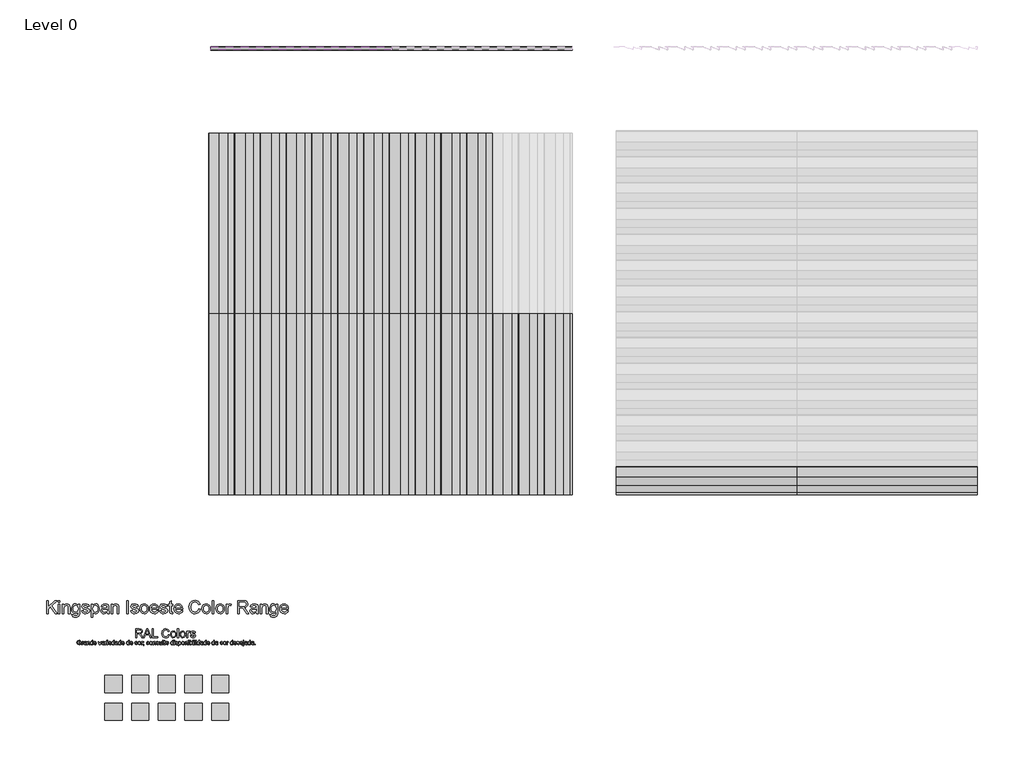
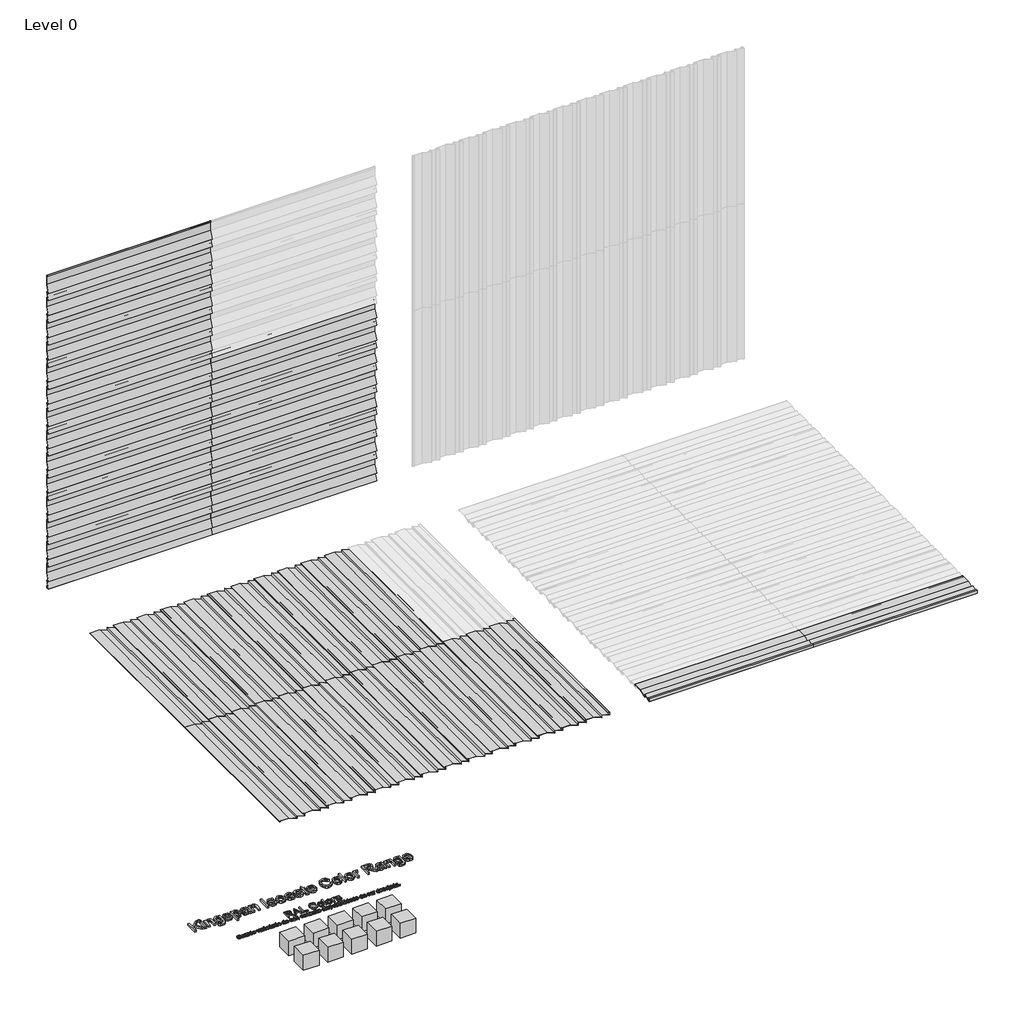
# One storey, part 1 of 2: 60 proxies.
"""IFC4 building model written with IfcOpenShell, lengths in millimetres."""

from ifc_helpers import new_model, si_unit, origin, place, context, project, spatial, transform, mapped, element, save
from components import proxy_32_ks_iso_colour_range_8220f766, proxy_32_ks_iso_colour_range_06d69407, ks_colour_sample_ks_colour_sample_0243efec, ps3_0_standard_panel_ns_63d88878, ps3_0_standard_panel_ns_83fd88ae

model = new_model("IFC4")

# Units and contexts
model_context = context("Model", 3, world=origin())
ifc_project = project(units=[si_unit("LENGTHUNIT", "METRE", prefix="MILLI")], contexts=[model_context])

# Site, building, storey
site = spatial("IfcSite", under=ifc_project)
building = spatial("IfcBuilding", under=site)
storey = spatial("IfcBuildingStorey", under=building, Name="Level 0", Elevation=0.0)

# Proxies
placement = place(None, origin())
proxy_32_ks_iso_colour_range_shape = proxy_32_ks_iso_colour_range_8220f766(model_context)
proxy_32_ks_iso_colour_range_2_shape = proxy_32_ks_iso_colour_range_06d69407(model_context)
element("IfcBuildingElementProxy", 1, Name="32-KS-ISO-Colour Range : Kingspan Isoeste Color Range", ObjectType="32-KS-ISO-Colour Range : Kingspan Isoeste Color Range", at=placement, inside=storey, context=model_context, shape_type="MappedRepresentation", body=[
    mapped(proxy_32_ks_iso_colour_range_shape, transform((-3929.8390717, -2223.0925896, 0.0), x_axis=(1.0, 0.0, 0.0), y_axis=(0.0, 1.0, 0.0), z_axis=(0.0, 0.0, 1.0))),
    mapped(proxy_32_ks_iso_colour_range_2_shape, transform((-3929.8390717, -2223.0925896, 0.0), x_axis=(1.0, 0.0, 0.0), y_axis=(0.0, 1.0, 0.0), z_axis=(0.0, 0.0, 1.0))),
])
ks_colour_sample_ks_colour_sample_shape = ks_colour_sample_ks_colour_sample_0243efec(model_context)
element("IfcBuildingElementProxy", 2, Name="KS_Colour Sample : KS_Colour Sample", ObjectType="KS_Colour Sample : KS_Colour Sample", at=placement, inside=storey, context=model_context, shape_type="MappedRepresentation", body=[
    mapped(ks_colour_sample_ks_colour_sample_shape, transform((-3309.8390717, -2663.0925896, 0.0), x_axis=(1.0, 0.0, 0.0), y_axis=(0.0, 1.0, 0.0), z_axis=(0.0, 0.0, 1.0))),
])
element("IfcBuildingElementProxy", 3, Name="KS_Colour Sample : KS_Colour Sample", ObjectType="KS_Colour Sample : KS_Colour Sample", at=placement, inside=storey, context=model_context, shape_type="MappedRepresentation", body=[
    mapped(ks_colour_sample_ks_colour_sample_shape, transform((-3309.8390717, -2343.0925896, 0.0), x_axis=(1.0, 0.0, 0.0), y_axis=(0.0, 1.0, 0.0), z_axis=(0.0, 0.0, 1.0))),
])
element("IfcBuildingElementProxy", 4, Name="KS_Colour Sample : KS_Colour Sample", ObjectType="KS_Colour Sample : KS_Colour Sample", at=placement, inside=storey, context=model_context, shape_type="MappedRepresentation", body=[
    mapped(ks_colour_sample_ks_colour_sample_shape, transform((-4549.8390717, -2663.0925896, 0.0), x_axis=(1.0, 0.0, 0.0), y_axis=(0.0, 1.0, 0.0), z_axis=(0.0, 0.0, 1.0))),
])
element("IfcBuildingElementProxy", 5, Name="KS_Colour Sample : KS_Colour Sample", ObjectType="KS_Colour Sample : KS_Colour Sample", at=placement, inside=storey, context=model_context, shape_type="MappedRepresentation", body=[
    mapped(ks_colour_sample_ks_colour_sample_shape, transform((-4239.8390717, -2663.0925896, 0.0), x_axis=(1.0, 0.0, 0.0), y_axis=(0.0, 1.0, 0.0), z_axis=(0.0, 0.0, 1.0))),
])
element("IfcBuildingElementProxy", 6, Name="KS_Colour Sample : KS_Colour Sample", ObjectType="KS_Colour Sample : KS_Colour Sample", at=placement, inside=storey, context=model_context, shape_type="MappedRepresentation", body=[
    mapped(ks_colour_sample_ks_colour_sample_shape, transform((-3619.8390717, -2663.0925896, 0.0), x_axis=(1.0, 0.0, 0.0), y_axis=(0.0, 1.0, 0.0), z_axis=(0.0, 0.0, 1.0))),
])
element("IfcBuildingElementProxy", 7, Name="KS_Colour Sample : KS_Colour Sample", ObjectType="KS_Colour Sample : KS_Colour Sample", at=placement, inside=storey, context=model_context, shape_type="MappedRepresentation", body=[
    mapped(ks_colour_sample_ks_colour_sample_shape, transform((-4549.8390717, -2343.0925896, 0.0), x_axis=(1.0, 0.0, 0.0), y_axis=(0.0, 1.0, 0.0), z_axis=(0.0, 0.0, 1.0))),
])
element("IfcBuildingElementProxy", 8, Name="KS_Colour Sample : KS_Colour Sample", ObjectType="KS_Colour Sample : KS_Colour Sample", at=placement, inside=storey, context=model_context, shape_type="MappedRepresentation", body=[
    mapped(ks_colour_sample_ks_colour_sample_shape, transform((-4239.8390717, -2343.0925896, 0.0), x_axis=(1.0, 0.0, 0.0), y_axis=(0.0, 1.0, 0.0), z_axis=(0.0, 0.0, 1.0))),
])
element("IfcBuildingElementProxy", 9, Name="KS_Colour Sample : KS_Colour Sample", ObjectType="KS_Colour Sample : KS_Colour Sample", at=placement, inside=storey, context=model_context, shape_type="MappedRepresentation", body=[
    mapped(ks_colour_sample_ks_colour_sample_shape, transform((-3619.8390717, -2343.0925896, 0.0), x_axis=(1.0, 0.0, 0.0), y_axis=(0.0, 1.0, 0.0), z_axis=(0.0, 0.0, 1.0))),
])
element("IfcBuildingElementProxy", 10, Name="KS_Colour Sample : KS_Colour Sample", ObjectType="KS_Colour Sample : KS_Colour Sample", at=placement, inside=storey, context=model_context, shape_type="MappedRepresentation", body=[
    mapped(ks_colour_sample_ks_colour_sample_shape, transform((-3929.8390717, -2343.0925896, 0.0), x_axis=(1.0, 0.0, 0.0), y_axis=(0.0, 1.0, 0.0), z_axis=(0.0, 0.0, 1.0))),
])
element("IfcBuildingElementProxy", 11, Name="KS_Colour Sample : KS_Colour Sample", ObjectType="KS_Colour Sample : KS_Colour Sample", at=placement, inside=storey, context=model_context, shape_type="MappedRepresentation", body=[
    mapped(ks_colour_sample_ks_colour_sample_shape, transform((-3929.8390717, -2663.0925896, 0.0), x_axis=(1.0, 0.0, 0.0), y_axis=(0.0, 1.0, 0.0), z_axis=(0.0, 0.0, 1.0))),
])
ps3_0_standard_panel_ns_shape = ps3_0_standard_panel_ns_63d88878(model_context)
element("IfcBuildingElementProxy", 12, Name="PS3.0 : Standard Panel_NS", ObjectType="PS3.0 : Standard Panel_NS", at=placement, inside=storey, context=model_context, shape_type="MappedRepresentation", body=[
    mapped(ps3_0_standard_panel_ns_shape, transform((-3417.7637295, 5063.0274074, 900.0), x_axis=(1.0, 0.0, 0.0), y_axis=(0.0, 0.0, 1.0), z_axis=(0.0, -1.0, 0.0))),
])
element("IfcBuildingElementProxy", 13, Name="PS3.0 : Standard Panel_NS", ObjectType="PS3.0 : Standard Panel_NS", at=placement, inside=storey, context=model_context, shape_type="MappedRepresentation", body=[
    mapped(ps3_0_standard_panel_ns_shape, transform((-3417.7637295, 5063.0274074, 3300.0), x_axis=(1.0, 0.0, 0.0), y_axis=(0.0, 0.0, 1.0), z_axis=(0.0, -1.0, 0.0))),
])
element("IfcBuildingElementProxy", 14, Name="PS3.0 : Standard Panel_NS", ObjectType="PS3.0 : Standard Panel_NS", at=placement, inside=storey, context=model_context, shape_type="MappedRepresentation", body=[
    mapped(ps3_0_standard_panel_ns_shape, transform((-1317.7637295, 5063.0274074, 900.0), x_axis=(1.0, 0.0, 0.0), y_axis=(0.0, 0.0, 1.0), z_axis=(0.0, -1.0, 0.0))),
])
ps3_0_standard_panel_ns_2_shape = ps3_0_standard_panel_ns_83fd88ae(model_context)
element("IfcBuildingElementProxy", 15, Name="PS3.0 : Standard Panel_NS", ObjectType="PS3.0 : Standard Panel_NS", at=placement, inside=storey, context=model_context, shape_type="MappedRepresentation", body=[
    mapped(ps3_0_standard_panel_ns_2_shape, transform((-117.7637297, -141.6886547, 0.0), x_axis=(0.0, 1.0, 0.0), y_axis=(-1.0, 0.0, 0.0), z_axis=(0.0, 0.0, 1.0))),
])
element("IfcBuildingElementProxy", 16, Name="PS3.0 : Standard Panel_NS", ObjectType="PS3.0 : Standard Panel_NS", at=placement, inside=storey, context=model_context, shape_type="MappedRepresentation", body=[
    mapped(ps3_0_standard_panel_ns_2_shape, transform((-2517.7637297, -141.6886547, 0.0), x_axis=(0.0, 1.0, 0.0), y_axis=(-1.0, 0.0, 0.0), z_axis=(0.0, 0.0, 1.0))),
])
element("IfcBuildingElementProxy", 17, Name="PS3.0 : Standard Panel_NS", ObjectType="PS3.0 : Standard Panel_NS", at=placement, inside=storey, context=model_context, shape_type="MappedRepresentation", body=[
    mapped(ps3_0_standard_panel_ns_2_shape, transform((-2517.7637297, 1958.3113453, 0.0), x_axis=(0.0, 1.0, 0.0), y_axis=(-1.0, 0.0, 0.0), z_axis=(0.0, 0.0, 1.0))),
])
element("IfcBuildingElementProxy", 18, Name="PS3.0 : Standard Panel_NS", ObjectType="PS3.0 : Standard Panel_NS", at=placement, inside=storey, context=model_context, shape_type="MappedRepresentation", body=[
    mapped(ps3_0_standard_panel_ns_2_shape, transform((-117.7637297, 1958.3113453, 0.0), x_axis=(0.0, 1.0, 0.0), y_axis=(-1.0, 0.0, 0.0), z_axis=(0.0, 0.0, 1.0))),
])
element("IfcBuildingElementProxy", 19, Name="PS3.0 : Standard Panel_NS", ObjectType="PS3.0 : Standard Panel_NS", at=placement, inside=storey, context=model_context, shape_type="MappedRepresentation", body=[
    mapped(ps3_0_standard_panel_ns_shape, transform((-3417.7637295, 5063.0274074, 0.0), x_axis=(1.0, 0.0, 0.0), y_axis=(0.0, 0.0, 1.0), z_axis=(0.0, -1.0, 0.0))),
])
element("IfcBuildingElementProxy", 20, Name="PS3.0 : Standard Panel_NS", ObjectType="PS3.0 : Standard Panel_NS", at=placement, inside=storey, context=model_context, shape_type="MappedRepresentation", body=[
    mapped(ps3_0_standard_panel_ns_shape, transform((-3417.7637295, 5063.0274074, 2400.0), x_axis=(1.0, 0.0, 0.0), y_axis=(0.0, 0.0, 1.0), z_axis=(0.0, -1.0, 0.0))),
])
element("IfcBuildingElementProxy", 21, Name="PS3.0 : Standard Panel_NS", ObjectType="PS3.0 : Standard Panel_NS", at=placement, inside=storey, context=model_context, shape_type="MappedRepresentation", body=[
    mapped(ps3_0_standard_panel_ns_shape, transform((-1317.7637295, 5063.0274074, 0.0), x_axis=(1.0, 0.0, 0.0), y_axis=(0.0, 0.0, 1.0), z_axis=(0.0, -1.0, 0.0))),
])
element("IfcBuildingElementProxy", 22, Name="PS3.0 : Standard Panel_NS", ObjectType="PS3.0 : Standard Panel_NS", at=placement, inside=storey, context=model_context, shape_type="MappedRepresentation", body=[
    mapped(ps3_0_standard_panel_ns_2_shape, transform((-1617.7637297, -141.6886547, 0.0), x_axis=(0.0, 1.0, 0.0), y_axis=(-1.0, 0.0, 0.0), z_axis=(0.0, 0.0, 1.0))),
])
element("IfcBuildingElementProxy", 23, Name="PS3.0 : Standard Panel_NS", ObjectType="PS3.0 : Standard Panel_NS", at=placement, inside=storey, context=model_context, shape_type="MappedRepresentation", body=[
    mapped(ps3_0_standard_panel_ns_2_shape, transform((1289.7088668, -141.6886547, 0.0), x_axis=(1.0, 0.0, 0.0), y_axis=(0.0, 1.0, 0.0), z_axis=(0.0, 0.0, 1.0))),
])
element("IfcBuildingElementProxy", 24, Name="PS3.0 : Standard Panel_NS", ObjectType="PS3.0 : Standard Panel_NS", at=placement, inside=storey, context=model_context, shape_type="MappedRepresentation", body=[
    mapped(ps3_0_standard_panel_ns_2_shape, transform((-1617.7637297, 1958.3113453, 0.0), x_axis=(0.0, 1.0, 0.0), y_axis=(-1.0, 0.0, 0.0), z_axis=(0.0, 0.0, 1.0))),
])
element("IfcBuildingElementProxy", 25, Name="PS3.0 : Standard Panel_NS", ObjectType="PS3.0 : Standard Panel_NS", at=placement, inside=storey, context=model_context, shape_type="MappedRepresentation", body=[
    mapped(ps3_0_standard_panel_ns_2_shape, transform((3389.7088668, -141.6886547, 0.0), x_axis=(1.0, 0.0, 0.0), y_axis=(0.0, 1.0, 0.0), z_axis=(0.0, 0.0, 1.0))),
])
element("IfcBuildingElementProxy", 26, Name="PS3.0 : Standard Panel_NS", ObjectType="PS3.0 : Standard Panel_NS", at=placement, inside=storey, context=model_context, shape_type="MappedRepresentation", body=[
    mapped(ps3_0_standard_panel_ns_2_shape, transform((782.2362705, -141.6886547, 0.0), x_axis=(0.0, 1.0, 0.0), y_axis=(-1.0, 0.0, 0.0), z_axis=(0.0, 0.0, 1.0))),
])
element("IfcBuildingElementProxy", 27, Name="PS3.0 : Standard Panel_NS", ObjectType="PS3.0 : Standard Panel_NS", at=placement, inside=storey, context=model_context, shape_type="MappedRepresentation", body=[
    mapped(ps3_0_standard_panel_ns_2_shape, transform((-3117.7637295, -141.6886547, 0.0), x_axis=(0.0, 1.0, 0.0), y_axis=(-1.0, 0.0, 0.0), z_axis=(0.0, 0.0, 1.0))),
])
element("IfcBuildingElementProxy", 28, Name="PS3.0 : Standard Panel_NS", ObjectType="PS3.0 : Standard Panel_NS", at=placement, inside=storey, context=model_context, shape_type="MappedRepresentation", body=[
    mapped(ps3_0_standard_panel_ns_2_shape, transform((-717.7637297, -141.6886547, 0.0), x_axis=(0.0, 1.0, 0.0), y_axis=(-1.0, 0.0, 0.0), z_axis=(0.0, 0.0, 1.0))),
])
element("IfcBuildingElementProxy", 29, Name="PS3.0 : Standard Panel_NS", ObjectType="PS3.0 : Standard Panel_NS", at=placement, inside=storey, context=model_context, shape_type="MappedRepresentation", body=[
    mapped(ps3_0_standard_panel_ns_2_shape, transform((-3117.7637295, 1958.3113453, 0.0), x_axis=(0.0, 1.0, 0.0), y_axis=(-1.0, 0.0, 0.0), z_axis=(0.0, 0.0, 1.0))),
])
element("IfcBuildingElementProxy", 30, Name="PS3.0 : Standard Panel_NS", ObjectType="PS3.0 : Standard Panel_NS", at=placement, inside=storey, context=model_context, shape_type="MappedRepresentation", body=[
    mapped(ps3_0_standard_panel_ns_2_shape, transform((-717.7637297, 1958.3113453, 0.0), x_axis=(0.0, 1.0, 0.0), y_axis=(-1.0, 0.0, 0.0), z_axis=(0.0, 0.0, 1.0))),
])
element("IfcBuildingElementProxy", 31, Name="PS3.0 : Standard Panel_NS", ObjectType="PS3.0 : Standard Panel_NS", at=placement, inside=storey, context=model_context, shape_type="MappedRepresentation", body=[
    mapped(ps3_0_standard_panel_ns_shape, transform((-3417.7637295, 5063.0274074, 1500.0), x_axis=(1.0, 0.0, 0.0), y_axis=(0.0, 0.0, 1.0), z_axis=(0.0, -1.0, 0.0))),
])
element("IfcBuildingElementProxy", 32, Name="PS3.0 : Standard Panel_NS", ObjectType="PS3.0 : Standard Panel_NS", at=placement, inside=storey, context=model_context, shape_type="MappedRepresentation", body=[
    mapped(ps3_0_standard_panel_ns_shape, transform((-3417.7637295, 5063.0274074, 3900.0), x_axis=(1.0, 0.0, 0.0), y_axis=(0.0, 0.0, 1.0), z_axis=(0.0, -1.0, 0.0))),
])
element("IfcBuildingElementProxy", 33, Name="PS3.0 : Standard Panel_NS", ObjectType="PS3.0 : Standard Panel_NS", at=placement, inside=storey, context=model_context, shape_type="MappedRepresentation", body=[
    mapped(ps3_0_standard_panel_ns_shape, transform((-1317.7637295, 5063.0274074, 1500.0), x_axis=(1.0, 0.0, 0.0), y_axis=(0.0, 0.0, 1.0), z_axis=(0.0, -1.0, 0.0))),
])
element("IfcBuildingElementProxy", 34, Name="PS3.0 : Standard Panel_NS", ObjectType="PS3.0 : Standard Panel_NS", at=placement, inside=storey, context=model_context, shape_type="MappedRepresentation", body=[
    mapped(ps3_0_standard_panel_ns_shape, transform((-3417.7637295, 5063.0274074, 300.0), x_axis=(1.0, 0.0, 0.0), y_axis=(0.0, 0.0, 1.0), z_axis=(0.0, -1.0, 0.0))),
])
element("IfcBuildingElementProxy", 35, Name="PS3.0 : Standard Panel_NS", ObjectType="PS3.0 : Standard Panel_NS", at=placement, inside=storey, context=model_context, shape_type="MappedRepresentation", body=[
    mapped(ps3_0_standard_panel_ns_shape, transform((-3417.7637295, 5063.0274074, 2700.0), x_axis=(1.0, 0.0, 0.0), y_axis=(0.0, 0.0, 1.0), z_axis=(0.0, -1.0, 0.0))),
])
element("IfcBuildingElementProxy", 36, Name="PS3.0 : Standard Panel_NS", ObjectType="PS3.0 : Standard Panel_NS", at=placement, inside=storey, context=model_context, shape_type="MappedRepresentation", body=[
    mapped(ps3_0_standard_panel_ns_shape, transform((-1317.7637295, 5063.0274074, 300.0), x_axis=(1.0, 0.0, 0.0), y_axis=(0.0, 0.0, 1.0), z_axis=(0.0, -1.0, 0.0))),
])
element("IfcBuildingElementProxy", 37, Name="PS3.0 : Standard Panel_NS", ObjectType="PS3.0 : Standard Panel_NS", at=placement, inside=storey, context=model_context, shape_type="MappedRepresentation", body=[
    mapped(ps3_0_standard_panel_ns_shape, transform((-3417.7637295, 5063.0274074, 600.0), x_axis=(1.0, 0.0, 0.0), y_axis=(0.0, 0.0, 1.0), z_axis=(0.0, -1.0, 0.0))),
])
element("IfcBuildingElementProxy", 38, Name="PS3.0 : Standard Panel_NS", ObjectType="PS3.0 : Standard Panel_NS", at=placement, inside=storey, context=model_context, shape_type="MappedRepresentation", body=[
    mapped(ps3_0_standard_panel_ns_shape, transform((-3417.7637295, 5063.0274074, 3000.0), x_axis=(1.0, 0.0, 0.0), y_axis=(0.0, 0.0, 1.0), z_axis=(0.0, -1.0, 0.0))),
])
element("IfcBuildingElementProxy", 39, Name="PS3.0 : Standard Panel_NS", ObjectType="PS3.0 : Standard Panel_NS", at=placement, inside=storey, context=model_context, shape_type="MappedRepresentation", body=[
    mapped(ps3_0_standard_panel_ns_shape, transform((-1317.7637295, 5063.0274074, 600.0), x_axis=(1.0, 0.0, 0.0), y_axis=(0.0, 0.0, 1.0), z_axis=(0.0, -1.0, 0.0))),
])
element("IfcBuildingElementProxy", 40, Name="PS3.0 : Standard Panel_NS", ObjectType="PS3.0 : Standard Panel_NS", at=placement, inside=storey, context=model_context, shape_type="MappedRepresentation", body=[
    mapped(ps3_0_standard_panel_ns_shape, transform((-3417.7637295, 5063.0274074, 1200.0), x_axis=(1.0, 0.0, 0.0), y_axis=(0.0, 0.0, 1.0), z_axis=(0.0, -1.0, 0.0))),
])
element("IfcBuildingElementProxy", 41, Name="PS3.0 : Standard Panel_NS", ObjectType="PS3.0 : Standard Panel_NS", at=placement, inside=storey, context=model_context, shape_type="MappedRepresentation", body=[
    mapped(ps3_0_standard_panel_ns_shape, transform((-3417.7637295, 5063.0274074, 3600.0), x_axis=(1.0, 0.0, 0.0), y_axis=(0.0, 0.0, 1.0), z_axis=(0.0, -1.0, 0.0))),
])
element("IfcBuildingElementProxy", 42, Name="PS3.0 : Standard Panel_NS", ObjectType="PS3.0 : Standard Panel_NS", at=placement, inside=storey, context=model_context, shape_type="MappedRepresentation", body=[
    mapped(ps3_0_standard_panel_ns_shape, transform((-1317.7637295, 5063.0274074, 1200.0), x_axis=(1.0, 0.0, 0.0), y_axis=(0.0, 0.0, 1.0), z_axis=(0.0, -1.0, 0.0))),
])
element("IfcBuildingElementProxy", 43, Name="PS3.0 : Standard Panel_NS", ObjectType="PS3.0 : Standard Panel_NS", at=placement, inside=storey, context=model_context, shape_type="MappedRepresentation", body=[
    mapped(ps3_0_standard_panel_ns_shape, transform((-3417.7637295, 5063.0274074, 1800.0), x_axis=(1.0, 0.0, 0.0), y_axis=(0.0, 0.0, 1.0), z_axis=(0.0, -1.0, 0.0))),
])
element("IfcBuildingElementProxy", 44, Name="PS3.0 : Standard Panel_NS", ObjectType="PS3.0 : Standard Panel_NS", at=placement, inside=storey, context=model_context, shape_type="MappedRepresentation", body=[
    mapped(ps3_0_standard_panel_ns_shape, transform((-1317.7637295, 5063.0274074, 1800.0), x_axis=(1.0, 0.0, 0.0), y_axis=(0.0, 0.0, 1.0), z_axis=(0.0, -1.0, 0.0))),
])
element("IfcBuildingElementProxy", 45, Name="PS3.0 : Standard Panel_NS", ObjectType="PS3.0 : Standard Panel_NS", at=placement, inside=storey, context=model_context, shape_type="MappedRepresentation", body=[
    mapped(ps3_0_standard_panel_ns_shape, transform((-3417.7637295, 5063.0274074, 2100.0), x_axis=(1.0, 0.0, 0.0), y_axis=(0.0, 0.0, 1.0), z_axis=(0.0, -1.0, 0.0))),
])
element("IfcBuildingElementProxy", 46, Name="PS3.0 : Standard Panel_NS", ObjectType="PS3.0 : Standard Panel_NS", at=placement, inside=storey, context=model_context, shape_type="MappedRepresentation", body=[
    mapped(ps3_0_standard_panel_ns_shape, transform((-1317.7637295, 5063.0274074, 2100.0), x_axis=(1.0, 0.0, 0.0), y_axis=(0.0, 0.0, 1.0), z_axis=(0.0, -1.0, 0.0))),
])
element("IfcBuildingElementProxy", 47, Name="PS3.0 : Standard Panel_NS", ObjectType="PS3.0 : Standard Panel_NS", at=placement, inside=storey, context=model_context, shape_type="MappedRepresentation", body=[
    mapped(ps3_0_standard_panel_ns_2_shape, transform((482.2362703, -141.6886547, 0.0), x_axis=(0.0, 1.0, 0.0), y_axis=(-1.0, 0.0, 0.0), z_axis=(0.0, 0.0, 1.0))),
])
element("IfcBuildingElementProxy", 48, Name="PS3.0 : Standard Panel_NS", ObjectType="PS3.0 : Standard Panel_NS", at=placement, inside=storey, context=model_context, shape_type="MappedRepresentation", body=[
    mapped(ps3_0_standard_panel_ns_2_shape, transform((-1917.7637297, -141.6886547, 0.0), x_axis=(0.0, 1.0, 0.0), y_axis=(-1.0, 0.0, 0.0), z_axis=(0.0, 0.0, 1.0))),
])
element("IfcBuildingElementProxy", 49, Name="PS3.0 : Standard Panel_NS", ObjectType="PS3.0 : Standard Panel_NS", at=placement, inside=storey, context=model_context, shape_type="MappedRepresentation", body=[
    mapped(ps3_0_standard_panel_ns_2_shape, transform((-1917.7637297, 1958.3113453, 0.0), x_axis=(0.0, 1.0, 0.0), y_axis=(-1.0, 0.0, 0.0), z_axis=(0.0, 0.0, 1.0))),
])
element("IfcBuildingElementProxy", 50, Name="PS3.0 : Standard Panel_NS", ObjectType="PS3.0 : Standard Panel_NS", at=placement, inside=storey, context=model_context, shape_type="MappedRepresentation", body=[
    mapped(ps3_0_standard_panel_ns_2_shape, transform((182.2362703, -141.6886547, 0.0), x_axis=(0.0, 1.0, 0.0), y_axis=(-1.0, 0.0, 0.0), z_axis=(0.0, 0.0, 1.0))),
])
element("IfcBuildingElementProxy", 51, Name="PS3.0 : Standard Panel_NS", ObjectType="PS3.0 : Standard Panel_NS", at=placement, inside=storey, context=model_context, shape_type="MappedRepresentation", body=[
    mapped(ps3_0_standard_panel_ns_2_shape, transform((-2217.7637297, -141.6886547, 0.0), x_axis=(0.0, 1.0, 0.0), y_axis=(-1.0, 0.0, 0.0), z_axis=(0.0, 0.0, 1.0))),
])
element("IfcBuildingElementProxy", 52, Name="PS3.0 : Standard Panel_NS", ObjectType="PS3.0 : Standard Panel_NS", at=placement, inside=storey, context=model_context, shape_type="MappedRepresentation", body=[
    mapped(ps3_0_standard_panel_ns_2_shape, transform((-2217.7637297, 1958.3113453, 0.0), x_axis=(0.0, 1.0, 0.0), y_axis=(-1.0, 0.0, 0.0), z_axis=(0.0, 0.0, 1.0))),
])
element("IfcBuildingElementProxy", 53, Name="PS3.0 : Standard Panel_NS", ObjectType="PS3.0 : Standard Panel_NS", at=placement, inside=storey, context=model_context, shape_type="MappedRepresentation", body=[
    mapped(ps3_0_standard_panel_ns_2_shape, transform((-417.7637297, -141.6886547, 0.0), x_axis=(0.0, 1.0, 0.0), y_axis=(-1.0, 0.0, 0.0), z_axis=(0.0, 0.0, 1.0))),
])
element("IfcBuildingElementProxy", 54, Name="PS3.0 : Standard Panel_NS", ObjectType="PS3.0 : Standard Panel_NS", at=placement, inside=storey, context=model_context, shape_type="MappedRepresentation", body=[
    mapped(ps3_0_standard_panel_ns_2_shape, transform((-2817.7637297, -141.6886547, 0.0), x_axis=(0.0, 1.0, 0.0), y_axis=(-1.0, 0.0, 0.0), z_axis=(0.0, 0.0, 1.0))),
])
element("IfcBuildingElementProxy", 55, Name="PS3.0 : Standard Panel_NS", ObjectType="PS3.0 : Standard Panel_NS", at=placement, inside=storey, context=model_context, shape_type="MappedRepresentation", body=[
    mapped(ps3_0_standard_panel_ns_2_shape, transform((-2817.7637297, 1958.3113453, 0.0), x_axis=(0.0, 1.0, 0.0), y_axis=(-1.0, 0.0, 0.0), z_axis=(0.0, 0.0, 1.0))),
])
element("IfcBuildingElementProxy", 56, Name="PS3.0 : Standard Panel_NS", ObjectType="PS3.0 : Standard Panel_NS", at=placement, inside=storey, context=model_context, shape_type="MappedRepresentation", body=[
    mapped(ps3_0_standard_panel_ns_2_shape, transform((-417.7637297, 1958.3113453, 0.0), x_axis=(0.0, 1.0, 0.0), y_axis=(-1.0, 0.0, 0.0), z_axis=(0.0, 0.0, 1.0))),
])
element("IfcBuildingElementProxy", 57, Name="PS3.0 : Standard Panel_NS", ObjectType="PS3.0 : Standard Panel_NS", at=placement, inside=storey, context=model_context, shape_type="MappedRepresentation", body=[
    mapped(ps3_0_standard_panel_ns_2_shape, transform((-1017.7637297, -141.6886547, 0.0), x_axis=(0.0, 1.0, 0.0), y_axis=(-1.0, 0.0, 0.0), z_axis=(0.0, 0.0, 1.0))),
])
element("IfcBuildingElementProxy", 58, Name="PS3.0 : Standard Panel_NS", ObjectType="PS3.0 : Standard Panel_NS", at=placement, inside=storey, context=model_context, shape_type="MappedRepresentation", body=[
    mapped(ps3_0_standard_panel_ns_2_shape, transform((-1017.7637297, 1958.3113453, 0.0), x_axis=(0.0, 1.0, 0.0), y_axis=(-1.0, 0.0, 0.0), z_axis=(0.0, 0.0, 1.0))),
])
element("IfcBuildingElementProxy", 59, Name="PS3.0 : Standard Panel_NS", ObjectType="PS3.0 : Standard Panel_NS", at=placement, inside=storey, context=model_context, shape_type="MappedRepresentation", body=[
    mapped(ps3_0_standard_panel_ns_2_shape, transform((-1317.7637297, -141.6886547, 0.0), x_axis=(0.0, 1.0, 0.0), y_axis=(-1.0, 0.0, 0.0), z_axis=(0.0, 0.0, 1.0))),
])
element("IfcBuildingElementProxy", 60, Name="PS3.0 : Standard Panel_NS", ObjectType="PS3.0 : Standard Panel_NS", at=placement, inside=storey, context=model_context, shape_type="MappedRepresentation", body=[
    mapped(ps3_0_standard_panel_ns_2_shape, transform((-1317.7637297, 1958.3113453, 0.0), x_axis=(0.0, 1.0, 0.0), y_axis=(-1.0, 0.0, 0.0), z_axis=(0.0, 0.0, 1.0))),
])

save(model, "model.ifc")
